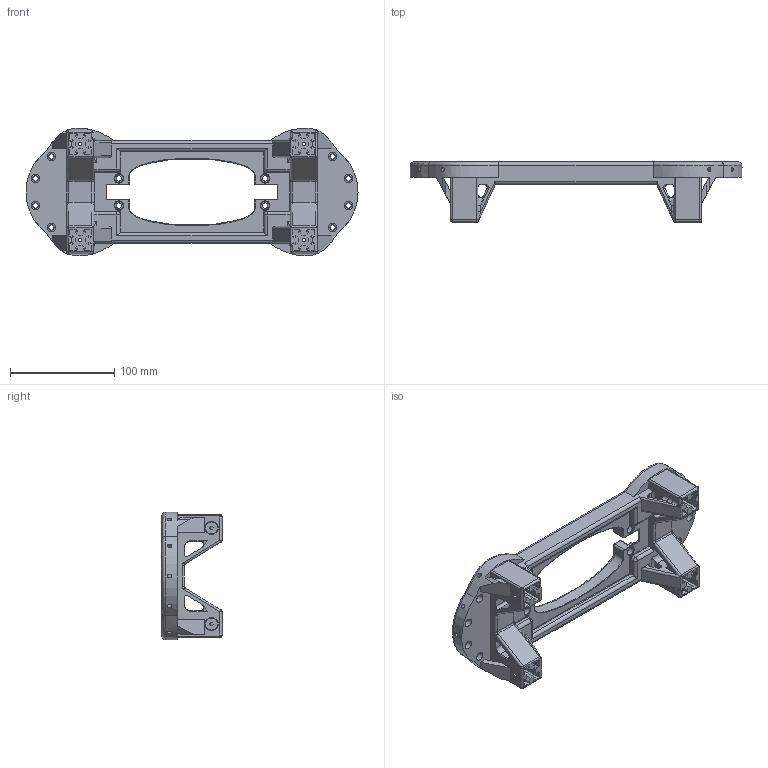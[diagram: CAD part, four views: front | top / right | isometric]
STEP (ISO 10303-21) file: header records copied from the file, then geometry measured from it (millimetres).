
FILE_DESCRIPTION(/* description */ ('STEP AP242 Edition 2','CAx-IF Rec.Pracs.---Representation and Presentation of Product Manufacturing Information (PMI)---4.0---2014-10-13','CAx-IF Rec.Pracs.---3D Tessellated Geometry---0.4---2014-09-14','2;1','CAx-IF Rec.Pracs.---User Defined Attributes---1.5---2016-08-15'),/* implementation_level */ '2;1');
FILE_NAME(/* name */ 'Tarok - Total Assemply - motor_mount',/* time_stamp */ '2026-05-23T09:34:07Z',/* author */ (''),/* organization */ (''),/* preprocessor_version */ 'ST-DEVELOPER v20',/* originating_system */ 'ONSHAPE BY PTC INC, 1.215',/* authorisation */ ' ');
FILE_SCHEMA (('AP242_MANAGED_MODEL_BASED_3D_ENGINEERING_MIM_LF { 1 0 10303 442 3 1 4 }'));
Length unit declared in the file: metre
Products named in the file (1): motor_mount
Bounding box: 318 x 57.5 x 122.34 mm (x, y, z)
Volume: 428189.2 mm3; surface area: 130521.2 mm2
Topology: 1 solids, 1 shells, 720 faces, 1981 edges, 1260 vertices
Faces by surface type: plane 400, cylinder 208, bspline 62, torus 43, sphere 7
Full cylindrical faces by diameter (mm): 3.25 x4, 3.8 x10, 5.05 x12, 8 x4, 8.15 x12, 12 x4
Entity records: 31962 total; most frequent: CARTESIAN_POINT 14288, ORIENTED_EDGE 3748, DIRECTION 3438, EDGE_CURVE 1874, LINE 1282, VECTOR 1282, VERTEX_POINT 1232, AXIS2_PLACEMENT_3D 1078
